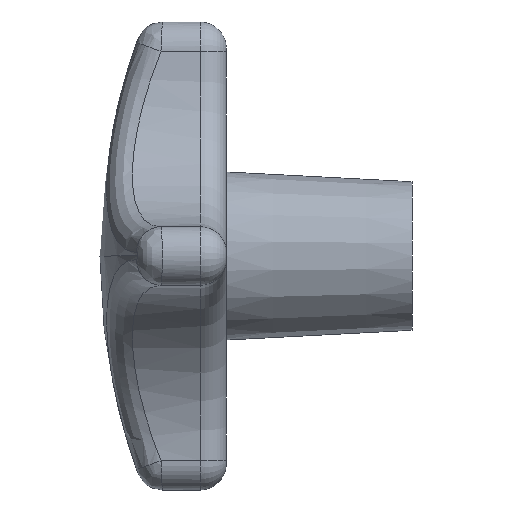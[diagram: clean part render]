
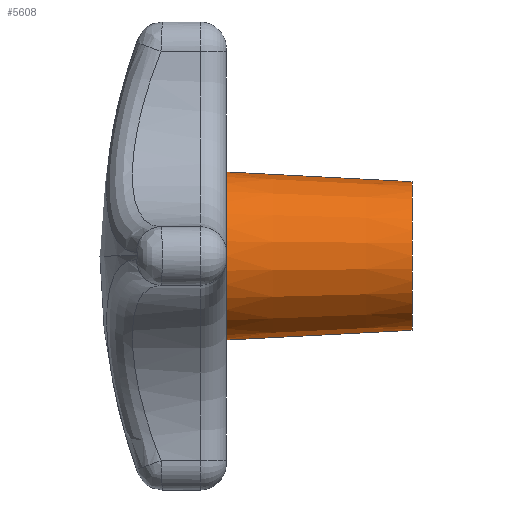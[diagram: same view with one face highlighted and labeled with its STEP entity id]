
A CAD part, left-side view. The second image highlights one B-rep face of the part: STEP entity #5608.
In plain terms, the highlighted conical face has half-angle 3 degrees and reference radius 10 mm.
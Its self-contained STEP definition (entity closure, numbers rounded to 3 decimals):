
#186 = CARTESIAN_POINT ( 'NONE',  ( 0., 0., 11.31 ) ) ;
#813 = DIRECTION ( 'NONE',  ( 0., 1., 0. ) ) ;
#814 = CARTESIAN_POINT ( 'NONE',  ( 0., -25., 0. ) ) ;
#815 = AXIS2_PLACEMENT_3D ( 'NONE', #814, #813, #869 ) ;
#816 = CIRCLE ( 'NONE', #815, 10. ) ;
#858 = DIRECTION ( 'NONE',  ( 0., 0., 1. ) ) ;
#859 = DIRECTION ( 'NONE',  ( 0., 1., 0. ) ) ;
#860 = CARTESIAN_POINT ( 'NONE',  ( 0., 0., 0. ) ) ;
#861 = AXIS2_PLACEMENT_3D ( 'NONE', #860, #859, #858 ) ;
#862 = CIRCLE ( 'NONE', #861, 11.31 ) ;
#863 = DIRECTION ( 'NONE',  ( 0., 0., 1. ) ) ;
#864 = DIRECTION ( 'NONE',  ( 0., 1., 0. ) ) ;
#865 = AXIS2_PLACEMENT_3D ( 'NONE', #866, #864, #863 ) ;
#866 = CARTESIAN_POINT ( 'NONE',  ( 0., -25., 0. ) ) ;
#867 = CONICAL_SURFACE ( 'NONE', #865, 10., 0.052 ) ;
#868 = FACE_OUTER_BOUND ( 'NONE', #5609, .T. ) ;
#869 = DIRECTION ( 'NONE',  ( 0., 0., 1. ) ) ;
#5215 = CARTESIAN_POINT ( 'NONE',  ( 0., 0., -11.31 ) ) ;
#5216 = CARTESIAN_POINT ( 'NONE',  ( 0., -25., -10. ) ) ;
#5226 = DIRECTION ( 'NONE',  ( 0., 0.999, 0.052 ) ) ;
#5227 = VECTOR ( 'NONE', #5226, 1000. ) ;
#5228 = CARTESIAN_POINT ( 'NONE',  ( 0., -25., 10. ) ) ;
#5229 = LINE ( 'NONE', #5228, #5227 ) ;
#5230 = VECTOR ( 'NONE', #5239, 1000. ) ;
#5238 = CARTESIAN_POINT ( 'NONE',  ( 0., -25., 10. ) ) ;
#5239 = DIRECTION ( 'NONE',  ( 0., 0.999, -0.052 ) ) ;
#5244 = CARTESIAN_POINT ( 'NONE',  ( 0., -25., -10. ) ) ;
#5265 = LINE ( 'NONE', #5244, #5230 ) ;
#5396 = EDGE_CURVE ( 'NONE', #5397, #5411, #5265, .T. ) ;
#5397 = VERTEX_POINT ( 'NONE', #5216 ) ;
#5398 = VERTEX_POINT ( 'NONE', #5238 ) ;
#5411 = VERTEX_POINT ( 'NONE', #5215 ) ;
#5412 = EDGE_CURVE ( 'NONE', #5398, #5426, #5229, .T. ) ;
#5426 = VERTEX_POINT ( 'NONE', #186 ) ;
#5584 = ORIENTED_EDGE ( 'NONE', *, *, #5610, .F. ) ;
#5604 = EDGE_CURVE ( 'NONE', #5397, #5398, #816, .T. ) ;
#5605 = ORIENTED_EDGE ( 'NONE', *, *, #5412, .T. ) ;
#5606 = ORIENTED_EDGE ( 'NONE', *, *, #5604, .T. ) ;
#5607 = ORIENTED_EDGE ( 'NONE', *, *, #5396, .F. ) ;
#5608 = ADVANCED_FACE ( 'NONE', ( #868 ), #867, .T. ) ;
#5609 = EDGE_LOOP ( 'NONE', ( #5607, #5606, #5605, #5584 ) ) ;
#5610 = EDGE_CURVE ( 'NONE', #5411, #5426, #862, .T. ) ;
